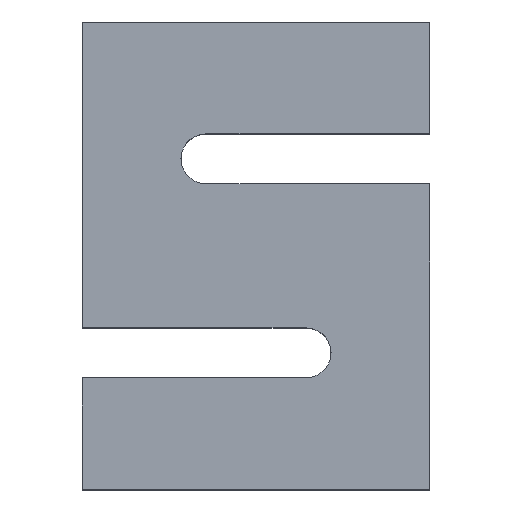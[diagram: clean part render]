
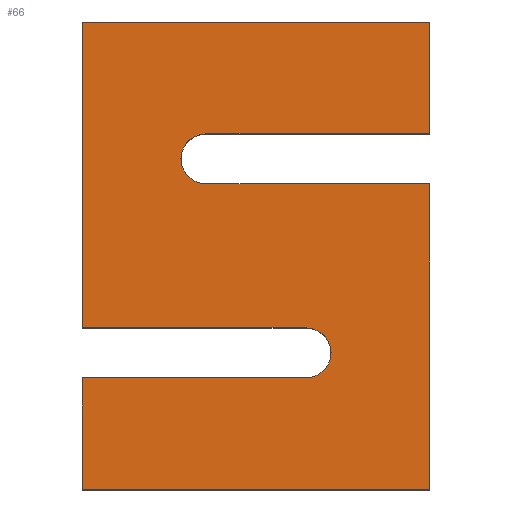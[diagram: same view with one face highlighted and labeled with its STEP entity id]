
A CAD part, top view. The second image highlights one B-rep face of the part: STEP entity #66.
In plain terms, the highlighted planar face has unit normal (0, 0, 1).
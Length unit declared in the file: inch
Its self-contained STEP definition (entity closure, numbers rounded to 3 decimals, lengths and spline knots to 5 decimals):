
#15 = EDGE_CURVE ( 'NONE', #511, #425, #569, .T. ) ;
#22 = DIRECTION ( 'NONE',  ( 1., 0., 0. ) ) ;
#28 = EDGE_CURVE ( 'NONE', #573, #260, #230, .T. ) ;
#30 = CARTESIAN_POINT ( 'NONE',  ( -0.79331, 1.92835, 1.2 ) ) ;
#34 = CARTESIAN_POINT ( 'NONE',  ( 2.75, 1.14094, 1.2 ) ) ;
#35 = VECTOR ( 'NONE', #528, 39.37008 ) ;
#36 = DIRECTION ( 'NONE',  ( 0., 0., 1. ) ) ;
#48 = LINE ( 'NONE', #108, #35 ) ;
#55 = CARTESIAN_POINT ( 'NONE',  ( -1.18701, 1.53465, 1.2 ) ) ;
#58 = DIRECTION ( 'NONE',  ( 0., -1., 0. ) ) ;
#66 = ADVANCED_FACE ( 'NONE', ( #273 ), #675, .T. ) ;
#75 = ORIENTED_EDGE ( 'NONE', *, *, #263, .T. ) ;
#77 = VERTEX_POINT ( 'NONE', #30 ) ;
#83 = CIRCLE ( 'NONE', #85, 0.3937 ) ;
#85 = AXIS2_PLACEMENT_3D ( 'NONE', #204, #201, #519 ) ;
#89 = EDGE_CURVE ( 'NONE', #526, #188, #588, .T. ) ;
#96 = DIRECTION ( 'NONE',  ( 0., 0., -1. ) ) ;
#99 = ORIENTED_EDGE ( 'NONE', *, *, #610, .T. ) ;
#108 = CARTESIAN_POINT ( 'NONE',  ( 2.75, 1.92835, 1.2 ) ) ;
#110 = EDGE_CURVE ( 'NONE', #432, #543, #397, .T. ) ;
#113 = CARTESIAN_POINT ( 'NONE',  ( 2.75, 3.7, 1.2 ) ) ;
#128 = DIRECTION ( 'NONE',  ( -1., 0., 0. ) ) ;
#134 = DIRECTION ( 'NONE',  ( -1., 0., 0. ) ) ;
#142 = CARTESIAN_POINT ( 'NONE',  ( 2.75, 3.7, 1.2 ) ) ;
#149 = LINE ( 'NONE', #482, #346 ) ;
#165 = VECTOR ( 'NONE', #128, 39.37008 ) ;
#171 = ORIENTED_EDGE ( 'NONE', *, *, #689, .T. ) ;
#185 = EDGE_CURVE ( 'NONE', #188, #77, #83, .T. ) ;
#188 = VERTEX_POINT ( 'NONE', #55 ) ;
#193 = CARTESIAN_POINT ( 'NONE',  ( 2.75, 1.14094, 1.2 ) ) ;
#201 = DIRECTION ( 'NONE',  ( 0., 0., -1. ) ) ;
#204 = CARTESIAN_POINT ( 'NONE',  ( -0.79331, 1.53465, 1.2 ) ) ;
#211 = CARTESIAN_POINT ( 'NONE',  ( -2.75, -3.7, 1.2 ) ) ;
#229 = AXIS2_PLACEMENT_3D ( 'NONE', #347, #553, #22 ) ;
#230 = LINE ( 'NONE', #458, #649 ) ;
#245 = DIRECTION ( 'NONE',  ( -1., 0., 0. ) ) ;
#250 = CARTESIAN_POINT ( 'NONE',  ( -0.79331, 1.14094, 1.2 ) ) ;
#251 = VERTEX_POINT ( 'NONE', #333 ) ;
#260 = VERTEX_POINT ( 'NONE', #638 ) ;
#263 = EDGE_CURVE ( 'NONE', #533, #432, #558, .T. ) ;
#273 = FACE_OUTER_BOUND ( 'NONE', #474, .T. ) ;
#275 = EDGE_CURVE ( 'NONE', #77, #511, #48, .T. ) ;
#276 = DIRECTION ( 'NONE',  ( 0., -1., 0. ) ) ;
#295 = CARTESIAN_POINT ( 'NONE',  ( -2.75, 3.7, 1.2 ) ) ;
#301 = VECTOR ( 'NONE', #324, 39.37008 ) ;
#303 = CARTESIAN_POINT ( 'NONE',  ( 2.75, 1.14094, 1.2 ) ) ;
#313 = LINE ( 'NONE', #193, #165 ) ;
#317 = CARTESIAN_POINT ( 'NONE',  ( -0.79331, 1.53465, 1.2 ) ) ;
#323 = VECTOR ( 'NONE', #134, 39.37008 ) ;
#324 = DIRECTION ( 'NONE',  ( 1., 0., 0. ) ) ;
#333 = CARTESIAN_POINT ( 'NONE',  ( 0.79331, -1.92835, 1.2 ) ) ;
#336 = EDGE_CURVE ( 'NONE', #383, #573, #149, .T. ) ;
#346 = VECTOR ( 'NONE', #276, 39.37008 ) ;
#347 = CARTESIAN_POINT ( 'NONE',  ( 0.79331, -1.53465, 1.2 ) ) ;
#349 = ORIENTED_EDGE ( 'NONE', *, *, #520, .T. ) ;
#352 = CARTESIAN_POINT ( 'NONE',  ( 2.75, -3.7, 1.2 ) ) ;
#355 = DIRECTION ( 'NONE',  ( 0., 1., 0. ) ) ;
#358 = CARTESIAN_POINT ( 'NONE',  ( 0.79331, -1.53465, 1.2 ) ) ;
#373 = CARTESIAN_POINT ( 'NONE',  ( -2.75, -1.92835, 1.2 ) ) ;
#383 = VERTEX_POINT ( 'NONE', #389 ) ;
#389 = CARTESIAN_POINT ( 'NONE',  ( -2.75, 3.7, 1.2 ) ) ;
#397 = LINE ( 'NONE', #211, #301 ) ;
#405 = CARTESIAN_POINT ( 'NONE',  ( -2.75, -1.14094, 1.2 ) ) ;
#410 = VECTOR ( 'NONE', #58, 39.37008 ) ;
#423 = ORIENTED_EDGE ( 'NONE', *, *, #647, .T. ) ;
#425 = VERTEX_POINT ( 'NONE', #113 ) ;
#432 = VERTEX_POINT ( 'NONE', #441 ) ;
#441 = CARTESIAN_POINT ( 'NONE',  ( -2.75, -3.7, 1.2 ) ) ;
#444 = CARTESIAN_POINT ( 'NONE',  ( -2.75, -1.92835, 1.2 ) ) ;
#447 = ORIENTED_EDGE ( 'NONE', *, *, #185, .T. ) ;
#456 = DIRECTION ( 'NONE',  ( 0., 1., 0. ) ) ;
#457 = ORIENTED_EDGE ( 'NONE', *, *, #336, .T. ) ;
#458 = CARTESIAN_POINT ( 'NONE',  ( -2.75, -1.14094, 1.2 ) ) ;
#474 = EDGE_LOOP ( 'NONE', ( #423, #171, #652, #447, #498, #599, #680, #457, #646, #99, #349, #75, #679 ) ) ;
#482 = CARTESIAN_POINT ( 'NONE',  ( -2.75, 3.7, 1.2 ) ) ;
#484 = LINE ( 'NONE', #607, #616 ) ;
#498 = ORIENTED_EDGE ( 'NONE', *, *, #275, .T. ) ;
#499 = VERTEX_POINT ( 'NONE', #303 ) ;
#511 = VERTEX_POINT ( 'NONE', #545 ) ;
#519 = DIRECTION ( 'NONE',  ( 1., 0., 0. ) ) ;
#520 = EDGE_CURVE ( 'NONE', #251, #533, #484, .T. ) ;
#521 = VECTOR ( 'NONE', #456, 39.37008 ) ;
#526 = VERTEX_POINT ( 'NONE', #250 ) ;
#528 = DIRECTION ( 'NONE',  ( 1., 0., 0. ) ) ;
#533 = VERTEX_POINT ( 'NONE', #444 ) ;
#540 = VECTOR ( 'NONE', #355, 39.37008 ) ;
#543 = VERTEX_POINT ( 'NONE', #352 ) ;
#545 = CARTESIAN_POINT ( 'NONE',  ( 2.75, 1.92835, 1.2 ) ) ;
#553 = DIRECTION ( 'NONE',  ( 0., 0., -1. ) ) ;
#555 = AXIS2_PLACEMENT_3D ( 'NONE', #358, #36, #668 ) ;
#558 = LINE ( 'NONE', #373, #410 ) ;
#569 = LINE ( 'NONE', #142, #540 ) ;
#572 = EDGE_CURVE ( 'NONE', #425, #383, #634, .T. ) ;
#573 = VERTEX_POINT ( 'NONE', #405 ) ;
#586 = AXIS2_PLACEMENT_3D ( 'NONE', #317, #96, #685 ) ;
#588 = CIRCLE ( 'NONE', #586, 0.3937 ) ;
#599 = ORIENTED_EDGE ( 'NONE', *, *, #15, .T. ) ;
#602 = CIRCLE ( 'NONE', #229, 0.3937 ) ;
#605 = DIRECTION ( 'NONE',  ( 1., 0., 0. ) ) ;
#607 = CARTESIAN_POINT ( 'NONE',  ( 0.79331, -1.92835, 1.2 ) ) ;
#610 = EDGE_CURVE ( 'NONE', #260, #251, #602, .T. ) ;
#616 = VECTOR ( 'NONE', #245, 39.37008 ) ;
#634 = LINE ( 'NONE', #295, #323 ) ;
#638 = CARTESIAN_POINT ( 'NONE',  ( 0.79331, -1.14094, 1.2 ) ) ;
#646 = ORIENTED_EDGE ( 'NONE', *, *, #28, .T. ) ;
#647 = EDGE_CURVE ( 'NONE', #543, #499, #672, .T. ) ;
#649 = VECTOR ( 'NONE', #605, 39.37008 ) ;
#652 = ORIENTED_EDGE ( 'NONE', *, *, #89, .T. ) ;
#668 = DIRECTION ( 'NONE',  ( 1., 0., 0. ) ) ;
#672 = LINE ( 'NONE', #34, #521 ) ;
#675 = PLANE ( 'NONE',  #555 ) ;
#679 = ORIENTED_EDGE ( 'NONE', *, *, #110, .T. ) ;
#680 = ORIENTED_EDGE ( 'NONE', *, *, #572, .T. ) ;
#685 = DIRECTION ( 'NONE',  ( 1., 0., 0. ) ) ;
#689 = EDGE_CURVE ( 'NONE', #499, #526, #313, .T. ) ;
